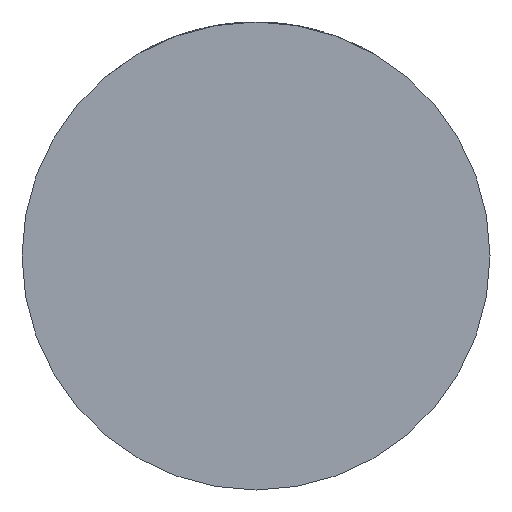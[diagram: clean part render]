
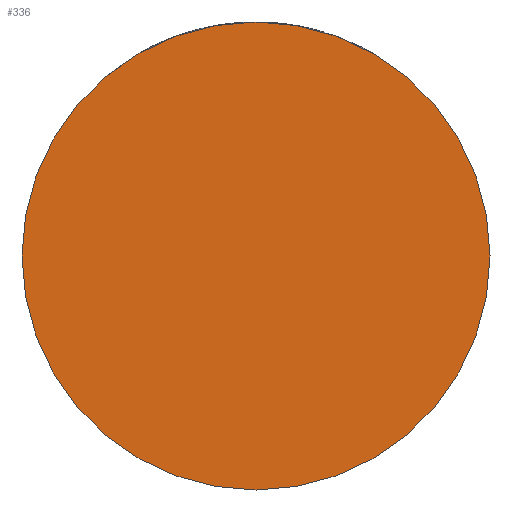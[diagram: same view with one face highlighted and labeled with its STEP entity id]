
A CAD part, front view. The second image highlights one B-rep face of the part: STEP entity #336.
In plain terms, the highlighted planar face has unit normal (0, -1, 0).
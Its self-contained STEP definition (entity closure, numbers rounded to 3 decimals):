
#314 = DIRECTION ( 'NONE',  ( 0., 1., 0. ) ) ;
#336 = ADVANCED_FACE ( 'NONE', ( #3655 ), #4517, .T. ) ;
#420 = AXIS2_PLACEMENT_3D ( 'NONE', #2840, #4489, #3272 ) ;
#836 = CARTESIAN_POINT ( 'NONE',  ( 0., -13., -20. ) ) ;
#1147 = CARTESIAN_POINT ( 'NONE',  ( 0., -13., 0. ) ) ;
#1645 = AXIS2_PLACEMENT_3D ( 'NONE', #1147, #314, #3228 ) ;
#2025 = EDGE_CURVE ( 'NONE', #4484, #2101, #4157, .T. ) ;
#2101 = VERTEX_POINT ( 'NONE', #2546 ) ;
#2111 = DIRECTION ( 'NONE',  ( 0., 0., 1. ) ) ;
#2139 = CARTESIAN_POINT ( 'NONE',  ( 0., -13., 0. ) ) ;
#2546 = CARTESIAN_POINT ( 'NONE',  ( 0., -13., 20. ) ) ;
#2722 = EDGE_CURVE ( 'NONE', #2101, #4484, #3476, .T. ) ;
#2840 = CARTESIAN_POINT ( 'NONE',  ( 0., -13., 0. ) ) ;
#3095 = EDGE_LOOP ( 'NONE', ( #3592, #4508 ) ) ;
#3228 = DIRECTION ( 'NONE',  ( 0., 0., 1. ) ) ;
#3272 = DIRECTION ( 'NONE',  ( 0., 0., -1. ) ) ;
#3476 = CIRCLE ( 'NONE', #4341, 20. ) ;
#3592 = ORIENTED_EDGE ( 'NONE', *, *, #2722, .F. ) ;
#3655 = FACE_OUTER_BOUND ( 'NONE', #3095, .T. ) ;
#3790 = DIRECTION ( 'NONE',  ( 0., 1., 0. ) ) ;
#4157 = CIRCLE ( 'NONE', #1645, 20. ) ;
#4341 = AXIS2_PLACEMENT_3D ( 'NONE', #2139, #3790, #2111 ) ;
#4484 = VERTEX_POINT ( 'NONE', #836 ) ;
#4489 = DIRECTION ( 'NONE',  ( 0., -1., 0. ) ) ;
#4508 = ORIENTED_EDGE ( 'NONE', *, *, #2025, .F. ) ;
#4517 = PLANE ( 'NONE',  #420 ) ;
